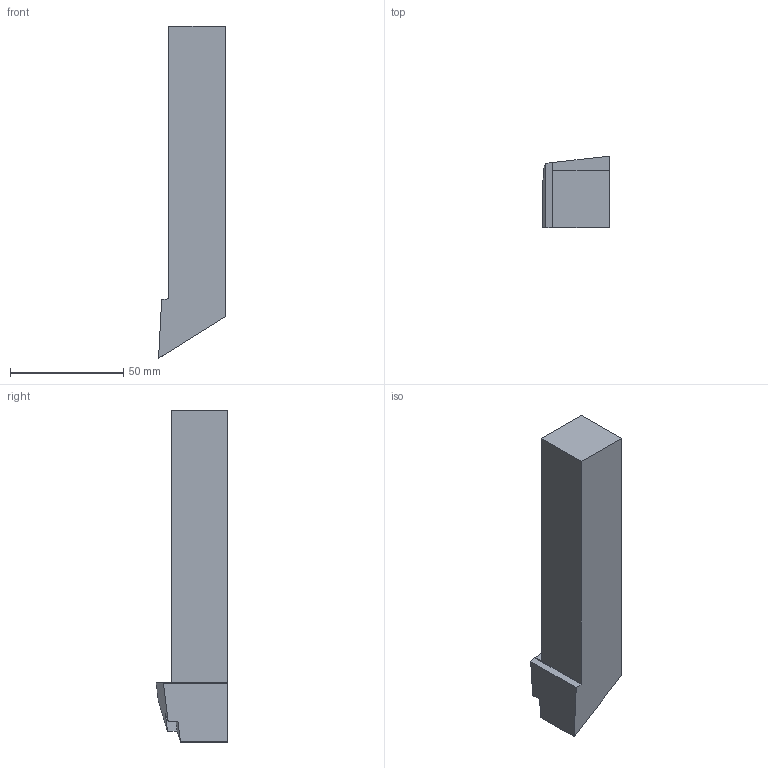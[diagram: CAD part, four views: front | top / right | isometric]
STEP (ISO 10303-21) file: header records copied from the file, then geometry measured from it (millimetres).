
FILE_DESCRIPTION(('no description'),'unknown implementation level');
FILE_NAME('solidH7zPSxBdRTYHl0WSbFpetq28Bqg_1.STP',' ',('CIMSOURCE GmbH'),('CADClick - KiM GmbH - www.kimweb.de'),'unknown preprocess','ACIS','unknown authorization');
FILE_SCHEMA(('automotive_design'));
Length unit declared in the file: millimetre
Products named in the file (1): NOCUT
Bounding box: 29.45 x 31.59 x 146.5 mm (x, y, z)
Volume: 88747.1 mm3; surface area: 15764.6 mm2
Topology: 1 solids, 1 shells, 27 faces, 71 edges, 47 vertices
Faces by surface type: plane 19, cylinder 8
Entity records: 1681 total; most frequent: DIRECTION 151, CARTESIAN_POINT 150, STYLED_ITEM 146, PRESENTATION_STYLE_ASSIGNMENT 146, COLOUR_RGB 146, ORIENTED_EDGE 142, EDGE_CURVE 71, CURVE_STYLE 71
